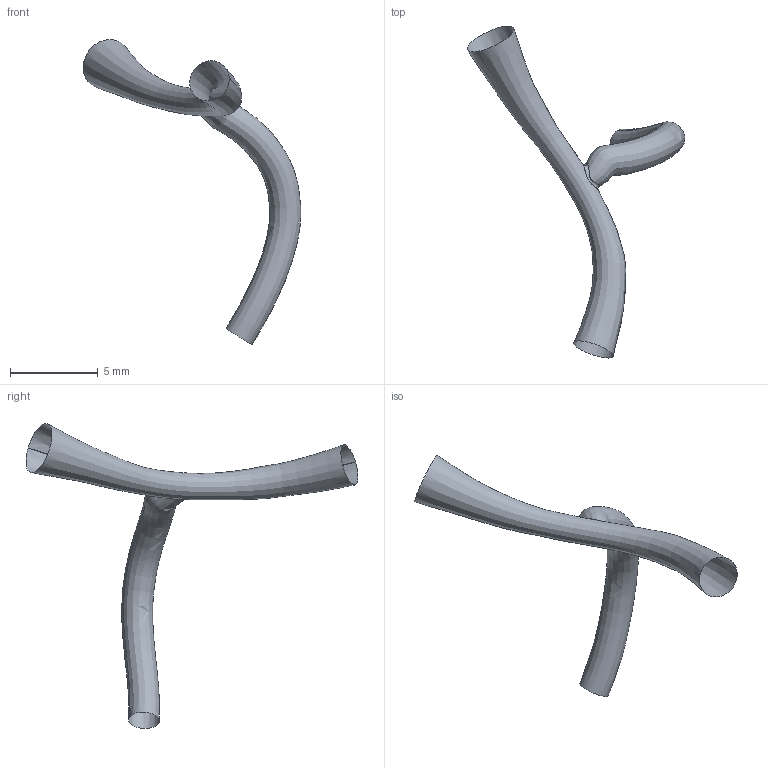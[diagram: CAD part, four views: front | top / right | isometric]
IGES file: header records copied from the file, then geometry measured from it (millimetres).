
Global section: file name: C:\Documents and Settings\Administrator\Desktop\FDA Bifurcation win\RawData_for_IGES\HRCA_Data\19990219.135207\IGES\19990219.135207.RM2.BIFUR.ED.igs; native system: Rhinoceros ( May 19 2006 ); preprocessor: Trout Lake IGES 012 May 19 2006; date: 100728.195740; units: centimetre
Bounding box: 12.41 x 18.92 x 17.38 mm (x, y, z)
Surface area: 208.4 mm2 (no closed solid volume)
Topology: 0 solids, 0 shells, 5 faces, 49 edges, 46 vertices
Faces by surface type: bspline 5
